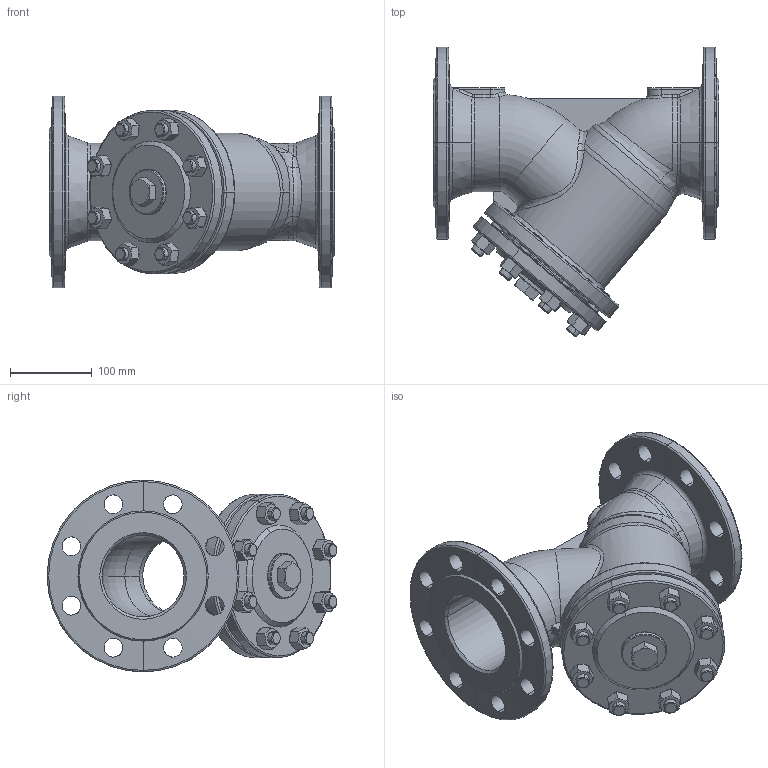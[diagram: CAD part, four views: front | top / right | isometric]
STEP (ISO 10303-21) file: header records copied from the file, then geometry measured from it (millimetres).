
FILE_DESCRIPTION (( 'STEP AP203' ), '1' );
FILE_NAME ('821_DN100_PN25.STEP', '2010-01-13T07:11:57', ( 'Piotr Zlobecki' ), ( 'ZETKAMA SA' ), 'SwSTEP 2.0', 'SolidWorks 2010', '' );
FILE_SCHEMA (( 'CONFIG_CONTROL_DESIGN' ));
Products named in the file (1): 821_DN100_PN25
Bounding box: 350 x 354.73 x 235 mm (x, y, z)
Volume: 3722889.3 mm3; surface area: 643788.6 mm2
Topology: 19 solids, 19 shells, 813 faces, 1797 edges, 1039 vertices
Faces by surface type: cylinder 269, cone 209, plane 183, torus 118, bspline 34
Entity records: 43353 total; most frequent: CARTESIAN_POINT 25393, DIRECTION 3907, ORIENTED_EDGE 3594, EDGE_CURVE 1797, AXIS2_PLACEMENT_3D 1654, VERTEX_POINT 1039, EDGE_LOOP 916, CIRCLE 874
